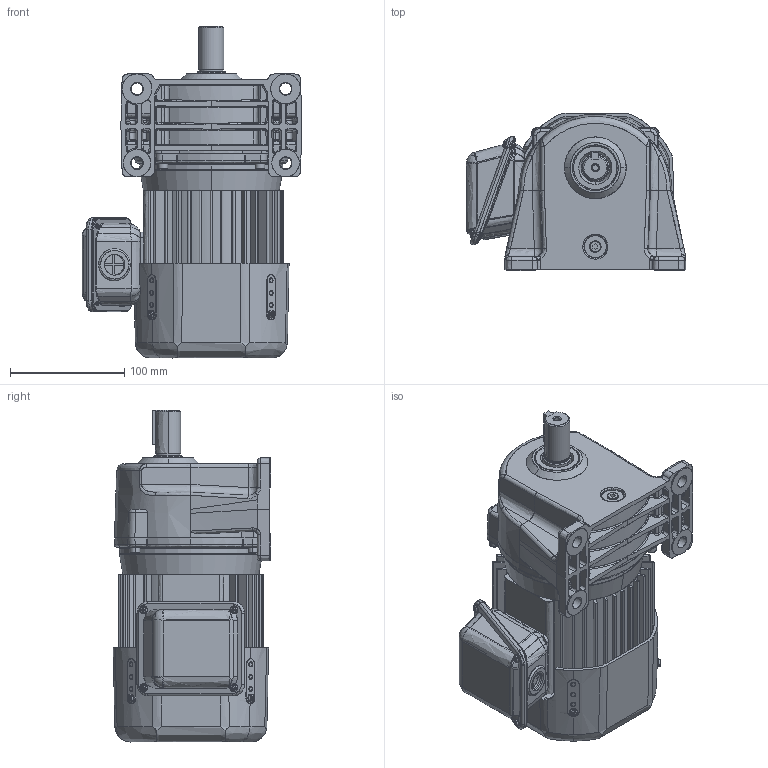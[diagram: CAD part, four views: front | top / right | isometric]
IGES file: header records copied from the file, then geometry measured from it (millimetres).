
Start section: SolidWorks IGES file using analytic representation for surfaces
Global section: file name: \\100.100.100.8\1_共有作業フォルダ\1-5_３Ｄデータ\solidworks\personal-folder\H.Nagayama\SGP1外形\P1(3D)\igs\TMLB2-01-(60~200).IGS; native system: SolidWorks 2018; preprocessor: SolidWorks 2018; author: sigma-giken; date: 200512.115719; units: millimetre
Bounding box: 192.21 x 138.03 x 290.6 mm (x, y, z)
Surface area: 403033 mm2 (no closed solid volume)
Topology: 0 solids, 0 shells, 1946 faces, 23842 edges, 23806 vertices
Faces by surface type: bspline 1017, revolution 929
